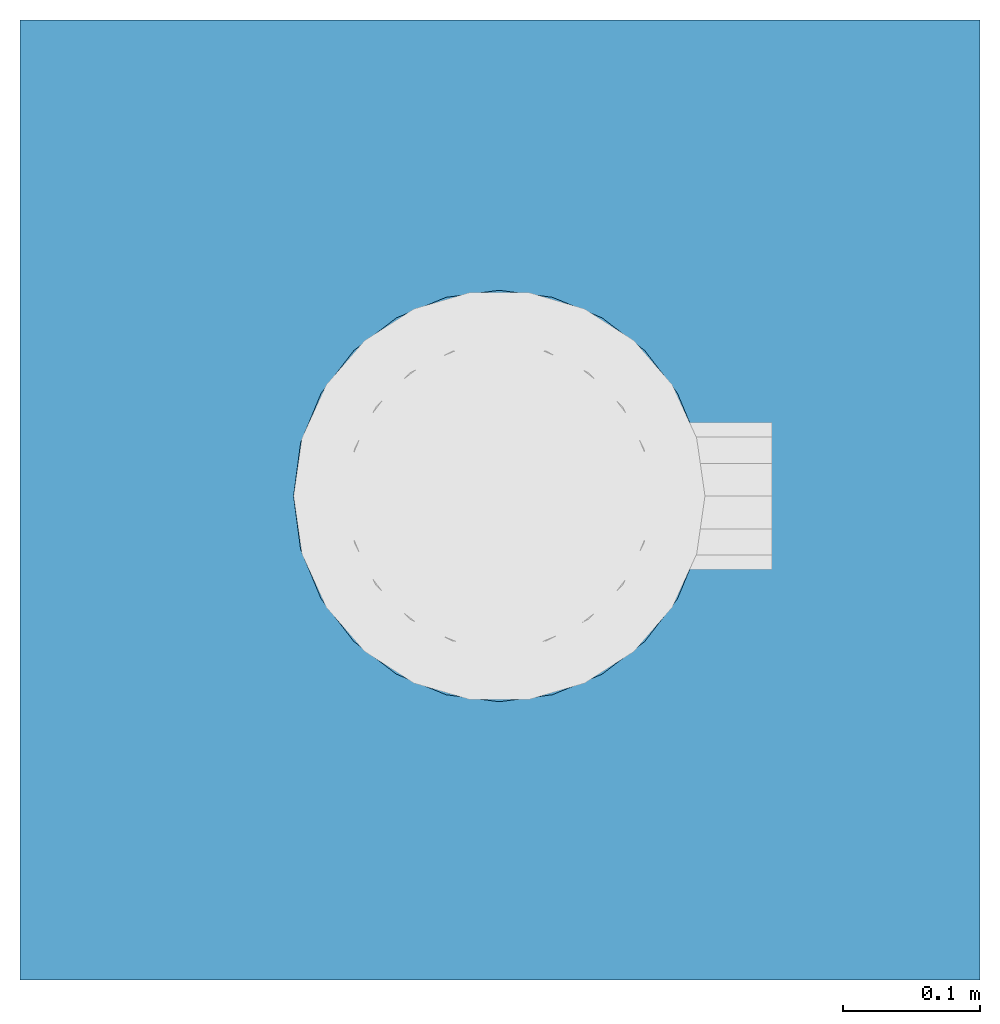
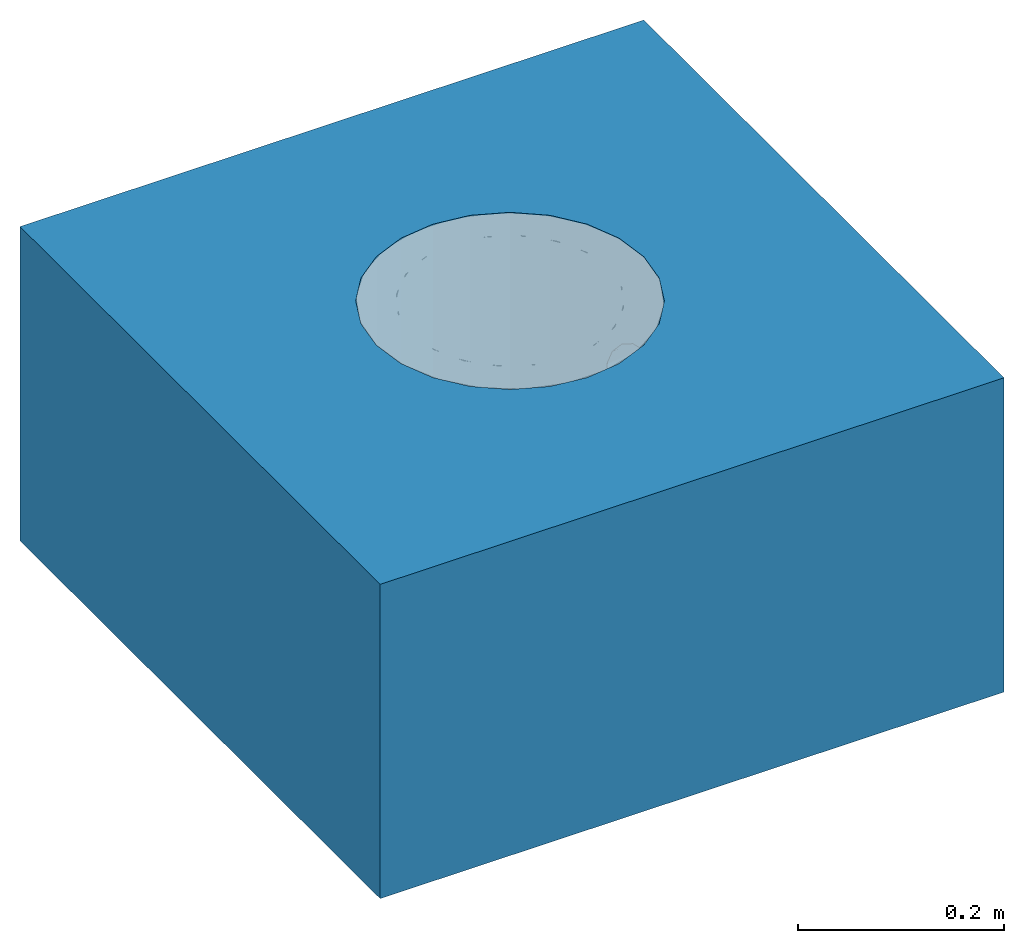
# One storey, incomplete: 1 slab, 1 opening.
"""IFC2X3 building model written with IfcOpenShell, lengths in millimetres."""

from ifc_helpers import new_model, entity, si_unit, converted_unit, derived_unit, direction, frame, frame_2d, origin, place, context, subcontext, project, spatial, rectangle, extrude, faceted_brep, material, layer, layer_set, layer_usage, element, save


model = new_model("IFC2X3")

# Units and contexts
model_context = context("Model", 3, precision=1e-05, world=origin(), true_north=direction((2.0, 6.12303176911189e-17, 1.0)))
context_of_model = context(None, 3, precision=1e-05, world=origin(), true_north=direction((2.0, 6.12303176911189e-17, 1.0)))
body_context = subcontext(model_context, "Body", "Model", "MODEL_VIEW")
ifc_project = project(units=[si_unit("LENGTHUNIT", "METRE", prefix="MILLI"), converted_unit("AREAUNIT", "SQUARE FOOT", entity("IfcRatioMeasure", 0.09290304), si_unit("AREAUNIT", "SQUARE_METRE"), dimensions=[2, 0, 0, 0, 0, 0, 0]), converted_unit("VOLUMEUNIT", "CUBIC FOOT", entity("IfcRatioMeasure", 0.028316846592), si_unit("VOLUMEUNIT", "CUBIC_METRE"), dimensions=[3, 0, 0, 0, 0, 0, 0]), converted_unit("PLANEANGLEUNIT", "DEGREE", entity("IfcRatioMeasure", 0.0174532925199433), si_unit("PLANEANGLEUNIT", "RADIAN"), dimensions=[0, 0, 0, 0, 0, 0, 0]), si_unit("MASSUNIT", "GRAM", prefix="KILO"), si_unit("TIMEUNIT", "SECOND"), si_unit("THERMODYNAMICTEMPERATUREUNIT", "KELVIN"), derived_unit("THERMALTRANSMITTANCEUNIT", [(si_unit("MASSUNIT", "GRAM", prefix="KILO"), 1), (si_unit("THERMODYNAMICTEMPERATUREUNIT", "KELVIN"), -1), (si_unit("TIMEUNIT", "SECOND"), -3)]), derived_unit("VOLUMETRICFLOWRATEUNIT", [(si_unit("LENGTHUNIT", "METRE"), 3), (si_unit("TIMEUNIT", "SECOND"), -1)]), si_unit("POWERUNIT", "WATT")], contexts=[model_context, context_of_model])

# Site, building, storey
site_placement = place(None, origin())
site = spatial("IfcSite", under=ifc_project, at=site_placement, Name="Default", CompositionType="ELEMENT")
building_placement = place(site_placement, origin())
building = spatial("IfcBuilding", under=site, at=building_placement, CompositionType="ELEMENT")
storey_placement = place(building_placement, origin())
storey = spatial("IfcBuildingStorey", under=building, at=storey_placement, Name="Level 1", CompositionType="ELEMENT", Elevation=0.0)

# Slab, opening
ifc_material_1 = material(Name="Plywood, Sheathing")
ifc_layer_1 = layer(ifc_material_1, 68.0)
ifc_material_2 = material(Name="Default Floor")
ifc_layer_2 = layer(ifc_material_2, 304.8)
ifc_layer_set = layer_set([ifc_layer_1, ifc_layer_2], Name="Floor:Generic - 12\"")
ifc_layer_usage = layer_usage(ifc_layer_set, "AXIS3", "POSITIVE", 0.0)
slab_placement = place(storey_placement, frame((-10498.0627721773, 2392.60708548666, -372.8)))
slab = element("IfcSlab", 1, at=slab_placement, inside=storey, material=ifc_layer_usage, Name="Floor:Generic - 12\"", ObjectType="Floor:Generic - 12\"", PredefinedType="FLOOR", context=body_context, shape_type="SweptSolid", body=[
    extrude(rectangle(XDim=700.0, YDim=699.999999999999, at=frame_2d((0.0, 0.0), x_axis=(0.0, -1.0))), frame((350.0, 350.0, 372.8), z_axis=(0.0, 0.0, -1.0), x_axis=(-1.0, 0.0, 0.0)), (0.0, 0.0, 1.0), 372.8),
])
opening_placement = place(slab_placement, frame((197.88204087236, 201.295058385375, 150.204727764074)))
element("IfcOpeningElement", 2, at=opening_placement, cuts=slab, ObjectType="Recess", context=body_context, shape_type="Brep", body=[
    faceted_brep([(350.59666153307, 165.830319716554, 3.46935179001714), (350.59666153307, 179.095272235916, 8.96387502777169), (350.59666153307, 190.486145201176, 17.7043992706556), (350.59666153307, 199.22666944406, 29.0952722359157), (350.59666153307, 204.721192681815, 42.360224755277), (350.59666153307, 204.721192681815, 70.8303197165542), (350.59666153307, 98.4693517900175, 70.8303197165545), (350.59666153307, 124.095272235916, 8.96387502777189), (350.59666153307, 151.595272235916, 1.5952722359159), (350.59666153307, 137.360224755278, 3.46935179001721), (350.59666153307, 112.704399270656, 17.7043992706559), (350.59666153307, 98.4693517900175, 42.3602247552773), (350.59666153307, 103.963875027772, 29.095272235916), (350.59666153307, 206.595272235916, 56.5952722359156), (350.59666153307, 199.226669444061, 84.0952722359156), (350.59666153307, 151.595272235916, 111.595272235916), (350.59666153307, 190.486145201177, 95.4861452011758), (350.59666153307, 165.830319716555, 109.721192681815), (350.59666153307, 179.095272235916, 104.22666944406), (350.59666153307, 124.095272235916, 104.22666944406), (350.59666153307, 112.704399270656, 95.486145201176), (350.59666153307, 103.963875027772, 84.0952722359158), (350.59666153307, 96.5952722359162, 56.5952722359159), (350.59666153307, 137.360224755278, 109.721192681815), (300.995637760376, 142.130304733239, 109.915117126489), (297.359476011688, 116.200401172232, 98.6928149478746), (293.847996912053, 104.012057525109, 84.1785584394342), (300.396003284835, 132.665337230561, 108.234962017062), (292.663719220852, 100.727756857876, 75.1978616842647), (291.479441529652, 97.4434561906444, 66.2171649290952), (291.480356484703, 97.4458197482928, 46.9600869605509), (292.664887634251, 100.731064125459, 37.98237052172), (293.849418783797, 104.016308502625, 29.0046540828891), (301.595272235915, 151.595272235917, 111.595272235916), (291.479899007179, 97.4446379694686, 56.588625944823), (297.361012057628, 116.206727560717, 14.492411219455), (298.120161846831, 120.324540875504, 12.1070457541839), (295.605215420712, 110.111518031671, 21.748532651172), (301.595272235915, 151.595272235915, 1.5952722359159), (300.996441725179, 142.136626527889, 3.27311079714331), (300.397611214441, 132.677980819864, 4.95094935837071), (300.796293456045, 138.975245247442, 3.83389799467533), (300.996441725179, 161.053917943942, 3.2731107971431), (300.796293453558, 164.215299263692, 3.83389800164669), (297.361012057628, 186.983816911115, 14.4924112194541), (295.605215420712, 193.079026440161, 21.748532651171), (292.663719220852, 202.462787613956, 75.1978616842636), (293.847996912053, 199.178486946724, 84.1785584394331), (300.397611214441, 170.512563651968, 4.95094935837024), (300.01803631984, 172.571470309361, 6.14363209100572), (292.664887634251, 202.459480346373, 37.9823705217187), (291.480356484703, 205.74472472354, 46.9600869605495), (291.479441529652, 205.747088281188, 66.2171649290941), (293.849418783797, 199.174235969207, 29.0046540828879), (291.479899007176, 205.745906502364, 56.5886259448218), (297.359476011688, 186.990143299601, 98.6928149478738), (300.396003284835, 170.525207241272, 108.234962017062), (300.995637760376, 161.060239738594, 109.915117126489), (151.595272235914, 301.595272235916, 1.59527223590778), (190.418129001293, 296.484146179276, 1.59527223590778), (226.595272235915, 281.499082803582, 1.59527223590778), (257.661289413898, 257.661289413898, 1.59527223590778), (281.499082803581, 226.595272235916, 1.59527223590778), (288.991614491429, 208.506700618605, 1.59527223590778), (296.484146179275, 190.418129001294, 1.59527223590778), (45.5292550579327, 257.661289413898, 1.59527223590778), (6.70639829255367, 112.772415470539, 1.59527223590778), (76.5952722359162, 281.499082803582, 1.59527223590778), (112.772415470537, 296.484146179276, 1.59527223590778), (21.6914616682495, 226.595272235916, 1.59527223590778), (1.5952722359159, 151.595272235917, 1.59527223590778), (6.70639829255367, 190.418129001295, 1.59527223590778), (296.484146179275, 112.772415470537, 1.59527223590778), (190.418129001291, 6.70639829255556, 1.59527223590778), (292.73788033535, 103.728129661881, 1.59527223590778), (257.661289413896, 45.5292550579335, 1.59527223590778), (226.595272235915, 21.6914616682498, 1.59527223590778), (281.499082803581, 76.5952722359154, 1.59527223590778), (21.6914616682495, 76.5952722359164, 1.59527223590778), (76.595272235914, 21.6914616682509, 1.59527223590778), (45.5292550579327, 45.5292550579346, 1.59527223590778), (151.595272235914, 1.59527223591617, 1.59527223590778), (112.772415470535, 6.7063982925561, 1.59527223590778), (296.937739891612, 186.972742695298, 1.59527223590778), (226.595272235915, 21.6914616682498, 222.595272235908), (1.5952722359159, 151.595272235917, 222.595272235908), (190.418129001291, 6.70639829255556, 222.595272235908), (301.595272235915, 151.595272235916, 222.595272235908), (257.661289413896, 45.5292550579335, 222.595272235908), (296.484146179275, 112.772415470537, 222.595272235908), (281.499082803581, 76.5952722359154, 222.595272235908), (6.70639829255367, 112.772415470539, 222.595272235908), (151.595272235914, 1.59527223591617, 222.595272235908), (76.595272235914, 21.6914616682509, 222.595272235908), (112.772415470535, 6.7063982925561, 222.595272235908), (21.6914616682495, 76.5952722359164, 222.595272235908), (45.5292550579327, 45.5292550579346, 222.595272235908), (296.484146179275, 190.418129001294, 222.595272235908), (281.499082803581, 226.595272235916, 222.595272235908), (257.661289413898, 257.661289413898, 222.595272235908), (226.595272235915, 281.499082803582, 222.595272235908), (190.418129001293, 296.484146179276, 222.595272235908), (151.595272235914, 301.595272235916, 222.595272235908), (21.6914616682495, 226.595272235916, 222.595272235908), (6.70639829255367, 190.418129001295, 222.595272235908), (45.5292550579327, 257.661289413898, 222.595272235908), (76.5952722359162, 281.499082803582, 222.595272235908), (112.772415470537, 296.484146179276, 222.595272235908), (298.298521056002, 126.553960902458, 1.59527223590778), (299.258886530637, 126.501260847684, 8.52899755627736), (298.879311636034, 124.44235419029, 9.72168028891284), (298.916661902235, 131.249206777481, 1.59527223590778), (300.01803631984, 130.619074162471, 6.14363209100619), (297.84492733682, 123.108574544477, 1.59527223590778), (297.391333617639, 119.663188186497, 1.59527223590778), (299.12270885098, 132.814288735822, 1.59527223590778), (298.504568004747, 128.119042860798, 1.59527223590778), (299.638461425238, 128.560167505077, 7.33631482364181), (298.710614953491, 129.68412481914, 1.59527223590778), (288.991614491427, 94.6838438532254, 1.59527223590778), (299.946896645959, 139.074616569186, 1.59527223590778), (296.937739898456, 116.217801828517, 1.59527223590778), (297.39133360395, 183.527356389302, 1.59527223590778), (298.916661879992, 171.941337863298, 1.59527223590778), (298.710614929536, 173.506419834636, 1.59527223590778), (299.258886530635, 176.689283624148, 8.52899755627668), (299.638461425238, 174.630376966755, 7.3363148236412), (298.504567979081, 175.071501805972, 1.59527223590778), (297.844927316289, 180.081970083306, 1.59527223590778), (298.120161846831, 182.866003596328, 12.1070457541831), (298.879311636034, 178.748190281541, 9.72168028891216), (292.737880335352, 199.462414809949, 1.59527223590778), (298.298521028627, 176.636583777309, 1.59527223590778), (299.946896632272, 164.115928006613, 1.59527223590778), (299.122708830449, 170.376255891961, 1.59527223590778)], [[[0, 1, 2]], [[0, 2, 3]], [[0, 4, 5]], [[4, 0, 3]], [[6, 7, 0]], [[8, 7, 9]], [[8, 0, 7]], [[10, 11, 12]], [[11, 10, 7]], [[7, 6, 11]], [[5, 4, 13]], [[14, 6, 5]], [[15, 14, 16]], [[17, 15, 16]], [[17, 16, 18]], [[19, 14, 15]], [[6, 20, 21]], [[22, 11, 6]], [[6, 19, 20]], [[14, 19, 6]], [[15, 23, 19]], [[6, 0, 5]], [[15, 24, 23]], [[20, 25, 26]], [[27, 25, 19]], [[6, 28, 29]], [[21, 28, 6]], [[27, 19, 23]], [[22, 30, 11]], [[31, 32, 12]], [[24, 27, 23]], [[21, 20, 26]], [[26, 28, 21]], [[24, 15, 33]], [[25, 20, 19]], [[31, 12, 11]], [[22, 6, 29]], [[22, 29, 34]], [[22, 34, 30]], [[11, 30, 31]], [[7, 35, 36]], [[10, 32, 37]], [[38, 8, 39]], [[9, 40, 41]], [[32, 10, 12]], [[7, 10, 35]], [[40, 9, 7]], [[9, 39, 8]], [[8, 42, 0]], [[0, 42, 43]], [[2, 44, 45]], [[46, 47, 14]], [[1, 48, 49]], [[4, 50, 51]], [[13, 52, 5]], [[3, 50, 4]], [[0, 48, 1]], [[2, 1, 44]], [[53, 3, 2]], [[53, 50, 3]], [[13, 4, 51]], [[13, 51, 54]], [[13, 54, 52]], [[5, 52, 46]], [[42, 8, 38]], [[46, 14, 5]], [[18, 55, 56]], [[16, 47, 55]], [[33, 15, 57]], [[17, 56, 57]], [[47, 16, 14]], [[18, 16, 55]], [[56, 17, 18]], [[17, 57, 15]], [[58, 59, 60]], [[58, 60, 61]], [[61, 62, 63]], [[61, 64, 58]], [[65, 58, 66]], [[58, 67, 68]], [[58, 65, 67]], [[69, 70, 71]], [[70, 69, 65]], [[65, 66, 70]], [[66, 58, 64]], [[66, 64, 72]], [[73, 72, 74]], [[75, 76, 73]], [[75, 73, 77]], [[66, 72, 73]], [[78, 79, 80]], [[79, 78, 66]], [[79, 81, 82]], [[79, 66, 73]], [[73, 81, 79]], [[72, 64, 83]], [[84, 85, 86]], [[87, 84, 88]], [[89, 87, 88]], [[89, 88, 90]], [[91, 86, 85]], [[92, 93, 94]], [[92, 86, 93]], [[93, 95, 96]], [[95, 93, 91]], [[86, 91, 93]], [[97, 84, 87]], [[97, 98, 99]], [[97, 99, 100]], [[100, 101, 102]], [[100, 85, 84]], [[85, 100, 102]], [[85, 103, 104]], [[103, 85, 105]], [[102, 106, 105]], [[105, 85, 102]], [[107, 106, 102]], [[100, 84, 97]], [[95, 78, 80]], [[91, 66, 78]], [[96, 80, 79]], [[81, 73, 92]], [[94, 82, 81]], [[93, 79, 82]], [[86, 73, 76]], [[108, 109, 110]], [[70, 66, 85]], [[111, 40, 112]], [[85, 66, 91]], [[95, 91, 78]], [[113, 36, 114]], [[36, 113, 110]], [[80, 96, 95]], [[96, 79, 93]], [[94, 93, 82]], [[40, 111, 115]], [[109, 116, 117]], [[92, 94, 81]], [[117, 116, 118]], [[73, 86, 92]], [[116, 109, 108]], [[76, 84, 86]], [[88, 75, 77]], [[72, 35, 37]], [[77, 30, 34]], [[119, 30, 77]], [[90, 77, 29]], [[120, 41, 40]], [[35, 121, 114]], [[32, 74, 37]], [[113, 108, 110]], [[40, 115, 120]], [[119, 32, 31]], [[37, 74, 72]], [[118, 112, 117]], [[75, 88, 84]], [[90, 29, 28]], [[88, 77, 90]], [[26, 89, 90]], [[25, 27, 89]], [[114, 36, 35]], [[27, 87, 89]], [[87, 27, 24]], [[120, 38, 39]], [[32, 119, 74]], [[25, 89, 26]], [[35, 72, 121]], [[75, 84, 76]], [[112, 118, 111]], [[64, 44, 83]], [[44, 122, 83]], [[48, 123, 49]], [[49, 123, 124]], [[64, 45, 44]], [[125, 126, 127]], [[62, 52, 54]], [[128, 129, 130]], [[45, 131, 53]], [[63, 51, 50]], [[62, 61, 99]], [[51, 63, 62]], [[122, 44, 129]], [[132, 125, 127]], [[87, 56, 97]], [[133, 48, 43]], [[87, 33, 57]], [[56, 55, 97]], [[130, 132, 128]], [[98, 47, 46]], [[53, 131, 63]], [[133, 43, 42]], [[98, 97, 47]], [[98, 52, 62]], [[129, 128, 122]], [[62, 99, 98]], [[47, 97, 55]], [[131, 45, 64]], [[48, 133, 134]], [[61, 60, 99]], [[101, 59, 58]], [[100, 60, 59]], [[123, 48, 134]], [[102, 58, 68]], [[124, 126, 49]], [[69, 71, 103]], [[106, 67, 65]], [[105, 65, 69]], [[68, 67, 107]], [[104, 71, 70]], [[132, 130, 125]], [[100, 59, 101]], [[101, 58, 102]], [[107, 102, 68]], [[126, 124, 127]], [[67, 106, 107]], [[106, 65, 105]], [[103, 105, 69]], [[104, 103, 71]], [[70, 85, 104]], [[60, 100, 99]], [[7, 36, 110]], [[7, 110, 109]], [[7, 109, 117]], [[7, 117, 112]], [[7, 112, 40]], [[10, 37, 35]], [[9, 41, 39]], [[0, 43, 48]], [[2, 45, 53]], [[1, 49, 126]], [[1, 126, 125]], [[1, 125, 130]], [[1, 130, 129]], [[1, 129, 44]], [[61, 63, 131]], [[61, 131, 64]], [[73, 74, 119]], [[73, 119, 77]], [[72, 83, 122]], [[72, 122, 128]], [[72, 128, 132]], [[72, 132, 127]], [[72, 127, 124]], [[72, 124, 123]], [[72, 123, 134]], [[72, 134, 133]], [[133, 38, 120]], [[133, 120, 115]], [[133, 115, 111]], [[133, 111, 118]], [[133, 118, 116]], [[133, 116, 108]], [[133, 108, 113]], [[133, 113, 114]], [[133, 114, 121]], [[133, 121, 72]], [[77, 34, 29]], [[119, 31, 30]], [[90, 28, 26]], [[87, 24, 33]], [[120, 39, 41]], [[62, 54, 51]], [[63, 50, 53]], [[87, 57, 56]], [[98, 46, 52]], [[133, 42, 38]]]),
])

save(model, "model.ifc")
